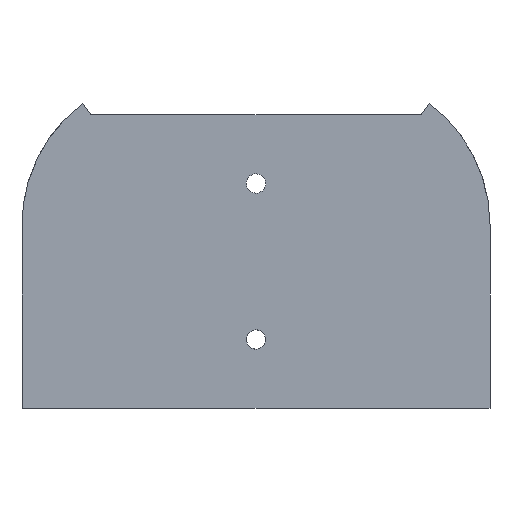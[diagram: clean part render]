
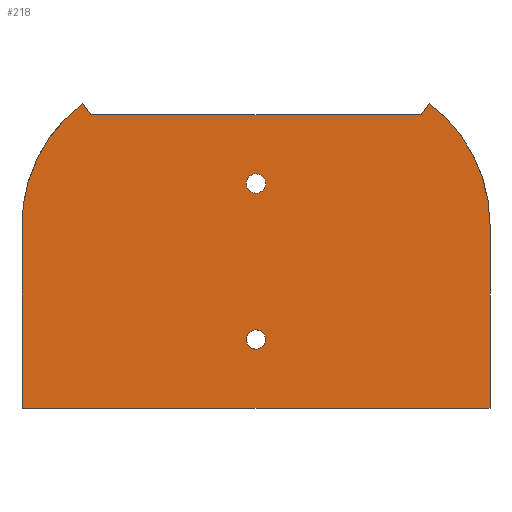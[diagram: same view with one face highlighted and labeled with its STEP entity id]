
A CAD part, left-side view. The second image highlights one B-rep face of the part: STEP entity #218.
In plain terms, the highlighted planar face has unit normal (-1, 0, 0).
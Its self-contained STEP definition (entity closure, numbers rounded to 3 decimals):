
#70=CARTESIAN_POINT('Vertex',(-423.,-59.657,195.932)) ;
#73=CARTESIAN_POINT('Axis2P3D Location',(-423.,-61.5,196.939)) ;
#77=CARTESIAN_POINT('Vertex',(-423.,-63.343,197.946)) ;
#97=CARTESIAN_POINT('Axis2P3D Location',(-423.,-61.5,196.939)) ;
#109=CARTESIAN_POINT('Axis2P3D Location',(-423.,-61.5,182.918)) ;
#115=CARTESIAN_POINT('Control Point',(-423.,-23.7,214.339)) ;
#116=CARTESIAN_POINT('Control Point',(-423.,-18.804,210.667)) ;
#117=CARTESIAN_POINT('Control Point',(-423.,-14.758,205.86)) ;
#118=CARTESIAN_POINT('Control Point',(-423.,-11.918,200.179)) ;
#119=CARTESIAN_POINT('Control Point',(-423.,-10.5,194.059)) ;
#120=CARTESIAN_POINT('Control Point',(-423.,-10.5,187.939)) ;
#121=CARTESIAN_POINT('Vertex',(-423.,-23.7,214.339)) ;
#123=CARTESIAN_POINT('Vertex',(-423.,-10.5,187.939)) ;
#126=CARTESIAN_POINT('Line Origine',(-423.,-10.5,181.139)) ;
#130=CARTESIAN_POINT('Vertex',(-423.,-10.5,147.939)) ;
#133=CARTESIAN_POINT('Line Origine',(-423.,-61.5,147.939)) ;
#137=CARTESIAN_POINT('Vertex',(-423.,-112.5,147.939)) ;
#140=CARTESIAN_POINT('Line Origine',(-423.,-112.5,181.139)) ;
#144=CARTESIAN_POINT('Vertex',(-423.,-112.5,187.939)) ;
#148=CARTESIAN_POINT('Control Point',(-423.,-112.5,187.939)) ;
#149=CARTESIAN_POINT('Control Point',(-423.,-112.5,194.059)) ;
#150=CARTESIAN_POINT('Control Point',(-423.,-111.082,200.179)) ;
#151=CARTESIAN_POINT('Control Point',(-423.,-108.242,205.86)) ;
#152=CARTESIAN_POINT('Control Point',(-423.,-104.196,210.667)) ;
#153=CARTESIAN_POINT('Control Point',(-423.,-99.3,214.339)) ;
#154=CARTESIAN_POINT('Vertex',(-423.,-99.3,214.339)) ;
#158=CARTESIAN_POINT('Control Point',(-423.,-99.3,214.339)) ;
#159=CARTESIAN_POINT('Control Point',(-423.,-97.5,211.939)) ;
#160=CARTESIAN_POINT('Vertex',(-423.,-97.5,211.939)) ;
#163=CARTESIAN_POINT('Line Origine',(-423.,-61.5,211.939)) ;
#167=CARTESIAN_POINT('Vertex',(-423.,-25.5,211.939)) ;
#171=CARTESIAN_POINT('Control Point',(-423.,-23.7,214.339)) ;
#172=CARTESIAN_POINT('Control Point',(-423.,-25.5,211.939)) ;
#189=CARTESIAN_POINT('Control Point',(-423.,-63.343,163.946)) ;
#190=CARTESIAN_POINT('Control Point',(-423.,-63.027,164.525)) ;
#191=CARTESIAN_POINT('Control Point',(-423.,-62.483,164.979)) ;
#192=CARTESIAN_POINT('Control Point',(-423.,-61.775,165.187)) ;
#193=CARTESIAN_POINT('Control Point',(-423.,-60.369,165.009)) ;
#194=CARTESIAN_POINT('Control Point',(-423.,-59.459,163.922)) ;
#195=CARTESIAN_POINT('Control Point',(-423.,-59.252,163.214)) ;
#196=CARTESIAN_POINT('Control Point',(-423.,-59.341,162.511)) ;
#197=CARTESIAN_POINT('Control Point',(-423.,-59.657,161.932)) ;
#198=CARTESIAN_POINT('Vertex',(-423.,-63.343,163.946)) ;
#200=CARTESIAN_POINT('Vertex',(-423.,-59.657,161.932)) ;
#204=CARTESIAN_POINT('Control Point',(-423.,-59.657,161.932)) ;
#205=CARTESIAN_POINT('Control Point',(-423.,-59.973,161.353)) ;
#206=CARTESIAN_POINT('Control Point',(-423.,-60.517,160.898)) ;
#207=CARTESIAN_POINT('Control Point',(-423.,-61.225,160.691)) ;
#208=CARTESIAN_POINT('Control Point',(-423.,-62.631,160.869)) ;
#209=CARTESIAN_POINT('Control Point',(-423.,-63.541,161.956)) ;
#210=CARTESIAN_POINT('Control Point',(-423.,-63.748,162.664)) ;
#211=CARTESIAN_POINT('Control Point',(-423.,-63.659,163.367)) ;
#212=CARTESIAN_POINT('Control Point',(-423.,-63.343,163.946)) ;
#74=DIRECTION('Axis2P3D Direction',(-1.,0.,0.)) ;
#98=DIRECTION('Axis2P3D Direction',(-1.,0.,0.)) ;
#110=DIRECTION('Axis2P3D Direction',(-1.,0.,0.)) ;
#111=DIRECTION('Axis2P3D XDirection',(0.,1.,0.)) ;
#127=DIRECTION('Vector Direction',(0.,0.,-1.)) ;
#134=DIRECTION('Vector Direction',(0.,1.,0.)) ;
#141=DIRECTION('Vector Direction',(0.,0.,-1.)) ;
#164=DIRECTION('Vector Direction',(0.,1.,0.)) ;
#75=AXIS2_PLACEMENT_3D('Circle Axis2P3D',#73,#74,$) ;
#99=AXIS2_PLACEMENT_3D('Circle Axis2P3D',#97,#98,$) ;
#112=AXIS2_PLACEMENT_3D('Plane Axis2P3D',#109,#110,#111) ;
#175=ORIENTED_EDGE('',*,*,#125,.T.) ;
#176=ORIENTED_EDGE('',*,*,#132,.F.) ;
#177=ORIENTED_EDGE('',*,*,#139,.T.) ;
#178=ORIENTED_EDGE('',*,*,#146,.F.) ;
#179=ORIENTED_EDGE('',*,*,#156,.F.) ;
#180=ORIENTED_EDGE('',*,*,#162,.T.) ;
#181=ORIENTED_EDGE('',*,*,#169,.T.) ;
#182=ORIENTED_EDGE('',*,*,#173,.F.) ;
#185=ORIENTED_EDGE('',*,*,#101,.F.) ;
#186=ORIENTED_EDGE('',*,*,#79,.F.) ;
#215=ORIENTED_EDGE('',*,*,#202,.F.) ;
#216=ORIENTED_EDGE('',*,*,#213,.F.) ;
#187=FACE_BOUND('',#184,.T.) ;
#217=FACE_BOUND('',#214,.T.) ;
#128=VECTOR('Line Direction',#127,1.) ;
#135=VECTOR('Line Direction',#134,1.) ;
#142=VECTOR('Line Direction',#141,1.) ;
#165=VECTOR('Line Direction',#164,1.) ;
#218=ADVANCED_FACE('MAIN',(#183,#187,#217),#113,.T.) ;
#114=B_SPLINE_CURVE_WITH_KNOTS('',5,(#115,#116,#117,#118,#119,#120),.UNSPECIFIED.,.F.,.U.,(6,6),(176.744,207.345),.UNSPECIFIED.) ;
#147=B_SPLINE_CURVE_WITH_KNOTS('',5,(#148,#149,#150,#151,#152,#153),.UNSPECIFIED.,.F.,.U.,(6,6),(103.673,134.273),.UNSPECIFIED.) ;
#157=B_SPLINE_CURVE_WITH_KNOTS('',1,(#158,#159),.UNSPECIFIED.,.F.,.U.,(2,2),(-1.5,1.5),.UNSPECIFIED.) ;
#170=B_SPLINE_CURVE_WITH_KNOTS('',1,(#171,#172),.UNSPECIFIED.,.F.,.U.,(2,2),(-1.5,1.5),.UNSPECIFIED.) ;
#188=B_SPLINE_CURVE_WITH_KNOTS('',5,(#189,#190,#191,#192,#193,#194,#195,#196,#197),.UNSPECIFIED.,.F.,.U.,(6,3,6),(7.647,10.946,14.245),.UNSPECIFIED.) ;
#203=B_SPLINE_CURVE_WITH_KNOTS('',5,(#204,#205,#206,#207,#208,#209,#210,#211,#212),.UNSPECIFIED.,.F.,.U.,(6,3,6),(1.05,4.349,7.647),.UNSPECIFIED.) ;
#76=CIRCLE('generated circle',#75,2.1) ;
#100=CIRCLE('generated circle',#99,2.1) ;
#79=EDGE_CURVE('',#71,#78,#76,.T.) ;
#101=EDGE_CURVE('',#78,#71,#100,.T.) ;
#125=EDGE_CURVE('',#122,#124,#114,.T.) ;
#132=EDGE_CURVE('',#131,#124,#129,.F.) ;
#139=EDGE_CURVE('',#131,#138,#136,.F.) ;
#146=EDGE_CURVE('',#145,#138,#143,.T.) ;
#156=EDGE_CURVE('',#155,#145,#147,.F.) ;
#162=EDGE_CURVE('',#155,#161,#157,.T.) ;
#169=EDGE_CURVE('',#161,#168,#166,.T.) ;
#173=EDGE_CURVE('',#122,#168,#170,.T.) ;
#202=EDGE_CURVE('',#199,#201,#188,.T.) ;
#213=EDGE_CURVE('',#201,#199,#203,.T.) ;
#174=EDGE_LOOP('',(#175,#176,#177,#178,#179,#180,#181,#182)) ;
#184=EDGE_LOOP('',(#185,#186)) ;
#214=EDGE_LOOP('',(#215,#216)) ;
#183=FACE_OUTER_BOUND('',#174,.T.) ;
#129=LINE('Line',#126,#128) ;
#136=LINE('Line',#133,#135) ;
#143=LINE('Line',#140,#142) ;
#166=LINE('Line',#163,#165) ;
#113=PLANE('',#112) ;
#71=VERTEX_POINT('',#70) ;
#78=VERTEX_POINT('',#77) ;
#122=VERTEX_POINT('',#121) ;
#124=VERTEX_POINT('',#123) ;
#131=VERTEX_POINT('',#130) ;
#138=VERTEX_POINT('',#137) ;
#145=VERTEX_POINT('',#144) ;
#155=VERTEX_POINT('',#154) ;
#161=VERTEX_POINT('',#160) ;
#168=VERTEX_POINT('',#167) ;
#199=VERTEX_POINT('',#198) ;
#201=VERTEX_POINT('',#200) ;
